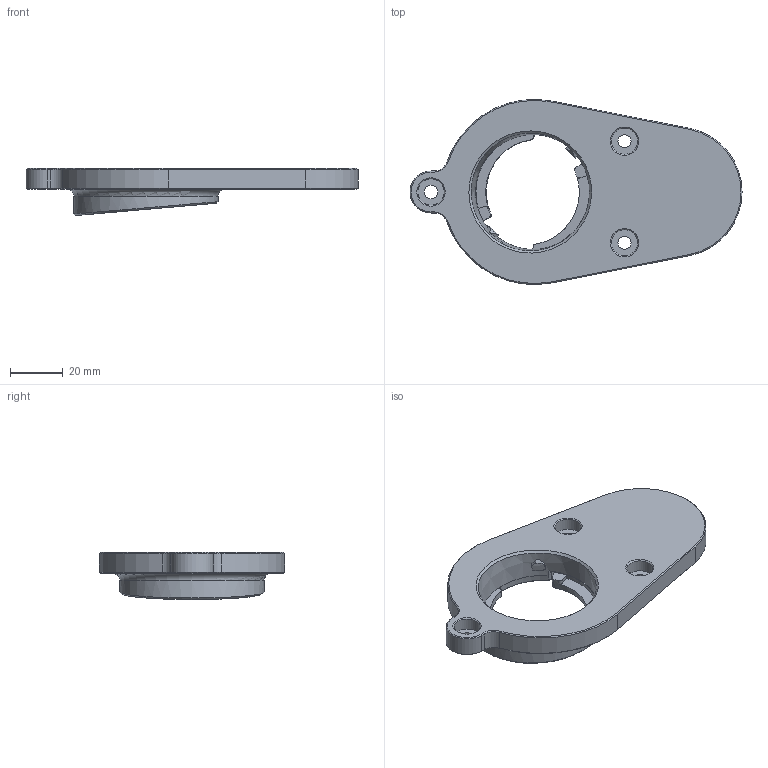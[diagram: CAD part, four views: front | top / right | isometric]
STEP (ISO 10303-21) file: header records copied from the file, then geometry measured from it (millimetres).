
FILE_DESCRIPTION(/* description */ ('Alibre Inc.'),/* implementation_level */ '2;1');
FILE_NAME(/* name */ 'export0',/* time_stamp */ '2017-07-18T23:02:50-04:00',/* author */ (''),/* organization */ (''),/* preprocessor_version */ 'ST-DEVELOPER v14',/* originating_system */ 'Alibre',/* authorisation */ '');
FILE_SCHEMA (('CONFIG_CONTROL_DESIGN'));
Length unit declared in the file: centimetre
Products named in the file (1): ID_1
Bounding box: 126.4 x 70.46 x 17.94 mm (x, y, z)
Volume: 32398.5 mm3; surface area: 18180.9 mm2
Topology: 1 solids, 1 shells, 186 faces, 451 edges, 273 vertices
Faces by surface type: plane 70, cone 48, cylinder 46, bspline 21, torus 1
Full cylindrical faces by diameter (mm): 5 x3, 10 x3, 55 x1
Entity records: 6732 total; most frequent: CARTESIAN_POINT 2490, ORIENTED_EDGE 856, DIRECTION 832, EDGE_CURVE 428, AXIS2_PLACEMENT_3D 347, VERTEX_POINT 266, EDGE_LOOP 214, FACE_BOUND 214
